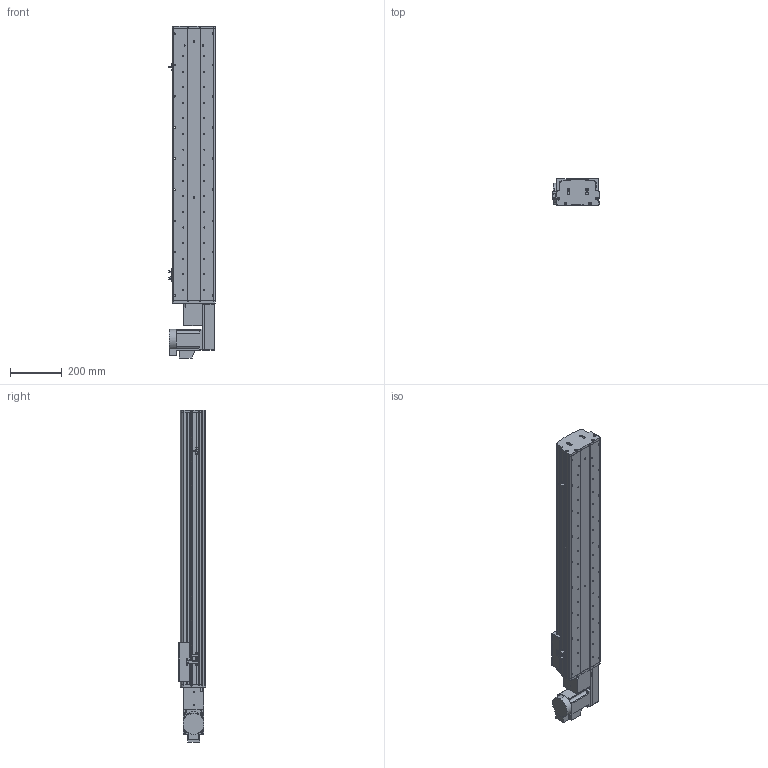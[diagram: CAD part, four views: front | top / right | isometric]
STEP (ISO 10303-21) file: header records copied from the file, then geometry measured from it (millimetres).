
FILE_DESCRIPTION (( 'STEP AP214' ), '1' );
FILE_NAME ('KSD165B-S800-MRB-CM.STEP', '2017-10-16T08:52:17', ( '微软用户' ), ( '微软中国' ), 'SwSTEP 2.0', 'SolidWorks 2014', '' );
FILE_SCHEMA (( 'AUTOMOTIVE_DESIGN' ));
Length unit declared in the file: millimetre
Products named in the file (17): KSD165B-S800-MRB-CM; HTPA26S5M250-A-H8 750W萇儂蚚; HTPA26S5M250-A-H8 400W萇儂蚚 ; 130宽模组马达安装板连板左右折同步带; 130宽模组保护罩上下左右折-同步带; KSD165模组-同步带防尘盖1-800行程-最新版; KSD165模组同步带底板-800行程-最新; 拸秶雄ん750W侜督萇儂; 165宽马达安装板同步带右; U倰嫖萇假蚾璃; U倰嫖萇EEㄜSX672; 覜茼え68遵圉猾敕; KSD165模组-同步带-防撞垫2; KSD165模组同步带-防撞垫1; KSD165耀郪-ヶ傷啣1-肮祭湍; KSD165模组-后端板1-同步带; KSD165模组-同步带滑动座-最新版
Assembly tree (20 placements, depth 2):
  KSD165B-S800-MRB-CM
    KSD165模组-同步带滑动座-最新版
    KSD165模组-后端板1-同步带
    KSD165耀郪-ヶ傷啣1-肮祭湍
    KSD165模组同步带-防撞垫1
    KSD165模组-同步带-防撞垫2
    覜茼え68遵圉猾敕
    U倰嫖萇EEㄜSX672  x3
    U倰嫖萇假蚾璃  x3
    165宽马达安装板同步带右
    拸秶雄ん750W侜督萇儂
    KSD165模组同步带底板-800行程-最新
    KSD165模组-同步带防尘盖1-800行程-最新版
    130宽模组保护罩上下左右折-同步带
    130宽模组马达安装板连板左右折同步带
    HTPA26S5M250-A-H8 400W萇儂蚚 
    HTPA26S5M250-A-H8 750W萇儂蚚
Bounding box: 178.7 x 104 x 1277.5 mm (x, y, z)
Volume: 7015930.3 mm3; surface area: 1627309.2 mm2
Topology: 21 solids, 21 shells, 1939 faces, 5472 edges, 3572 vertices
Faces by surface type: cylinder 1243, plane 584, cone 112
Entity records: 62772 total; most frequent: CARTESIAN_POINT 12868, DIRECTION 10332, ORIENTED_EDGE 9604, EDGE_CURVE 4802, AXIS2_PLACEMENT_3D 4050, VERTEX_POINT 3164, CIRCLE 2308, LINE 2232
